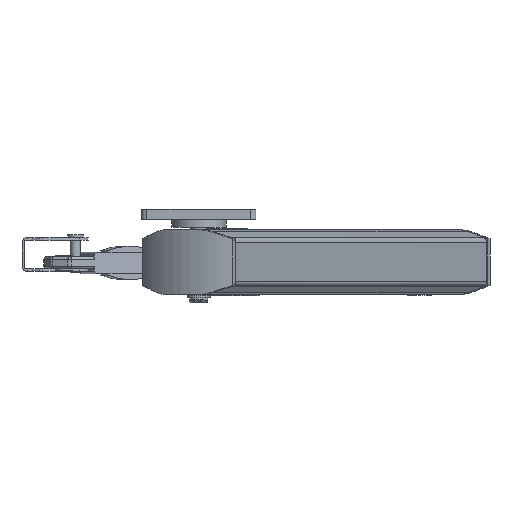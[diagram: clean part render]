
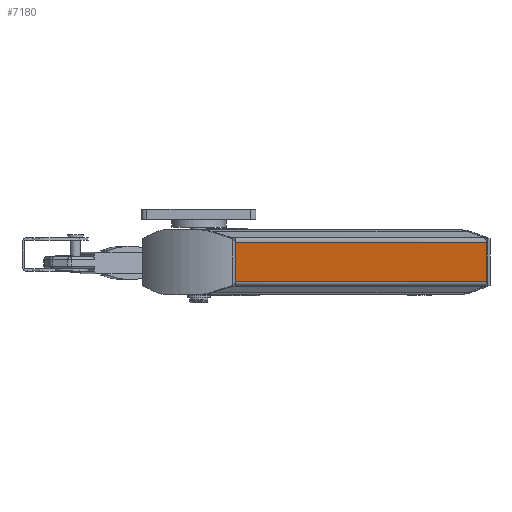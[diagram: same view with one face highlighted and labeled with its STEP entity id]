
A CAD part, front view. The second image highlights one B-rep face of the part: STEP entity #7180.
In plain terms, the highlighted planar face has unit normal (0.869, -0.495, 0) as drawn and (0, -1, 0) by its records, which use the part's own axes.
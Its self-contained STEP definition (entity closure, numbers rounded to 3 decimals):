
#590=PLANE('',#7802);
#910=FACE_OUTER_BOUND('',#1393,.T.);
#1393=EDGE_LOOP('',(#5715,#5716,#5717,#5718));
#1940=LINE('',#12103,#2457);
#1948=LINE('',#12301,#2465);
#1949=LINE('',#12304,#2466);
#1950=LINE('',#12305,#2467);
#2457=VECTOR('',#9167,10.);
#2465=VECTOR('',#9223,10.);
#2466=VECTOR('',#9226,10.);
#2467=VECTOR('',#9227,10.);
#3321=VERTEX_POINT('',#12091);
#3322=VERTEX_POINT('',#12102);
#3345=VERTEX_POINT('',#12290);
#3346=VERTEX_POINT('',#12303);
#4183=EDGE_CURVE('',#3321,#3322,#1940,.T.);
#4216=EDGE_CURVE('',#3345,#3321,#1948,.T.);
#4217=EDGE_CURVE('',#3345,#3346,#1949,.T.);
#4218=EDGE_CURVE('',#3322,#3346,#1950,.T.);
#5715=ORIENTED_EDGE('',*,*,#4216,.F.);
#5716=ORIENTED_EDGE('',*,*,#4217,.T.);
#5717=ORIENTED_EDGE('',*,*,#4218,.F.);
#5718=ORIENTED_EDGE('',*,*,#4183,.F.);
#7180=ADVANCED_FACE('',(#910),#590,.T.);
#7802=AXIS2_PLACEMENT_3D('',#12302,#9224,#9225);
#9167=DIRECTION('',(1.,0.,0.));
#9223=DIRECTION('',(0.,0.,1.));
#9224=DIRECTION('center_axis',(0.,-1.,0.));
#9225=DIRECTION('ref_axis',(0.,0.,-1.));
#9226=DIRECTION('',(1.,0.,0.));
#9227=DIRECTION('',(0.,0.,-1.));
#12091=CARTESIAN_POINT('',(4.939,0.,0.));
#12102=CARTESIAN_POINT('',(20.061,0.,0.));
#12103=CARTESIAN_POINT('',(0.,0.,0.));
#12290=CARTESIAN_POINT('',(4.939,0.,-195.139));
#12301=CARTESIAN_POINT('',(4.939,0.,5.25));
#12302=CARTESIAN_POINT('Origin',(0.,0.,0.));
#12303=CARTESIAN_POINT('',(20.061,0.,-195.139));
#12304=CARTESIAN_POINT('',(0.,0.,-195.139));
#12305=CARTESIAN_POINT('',(20.061,0.,5.25));
